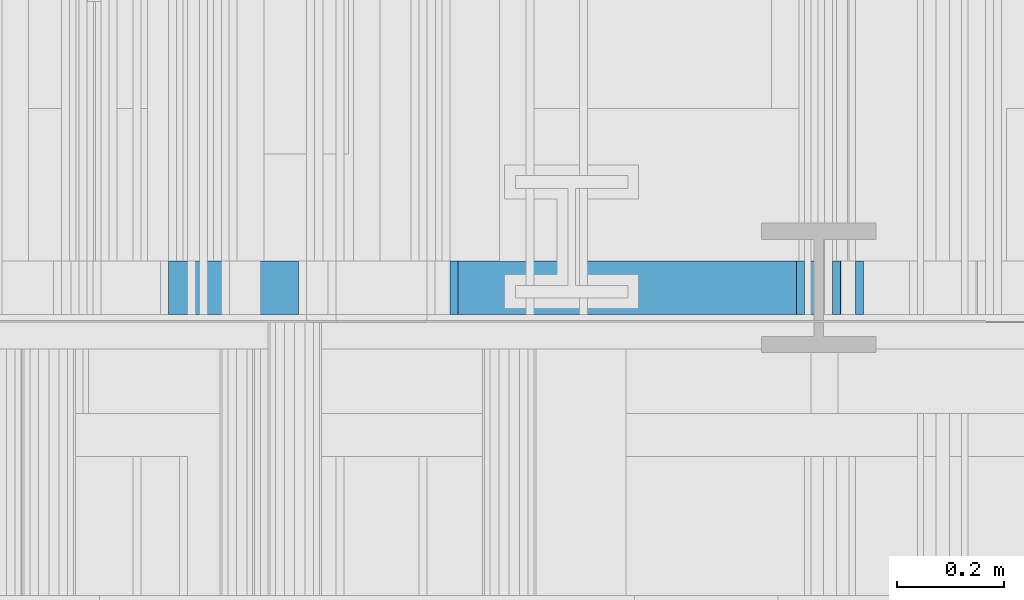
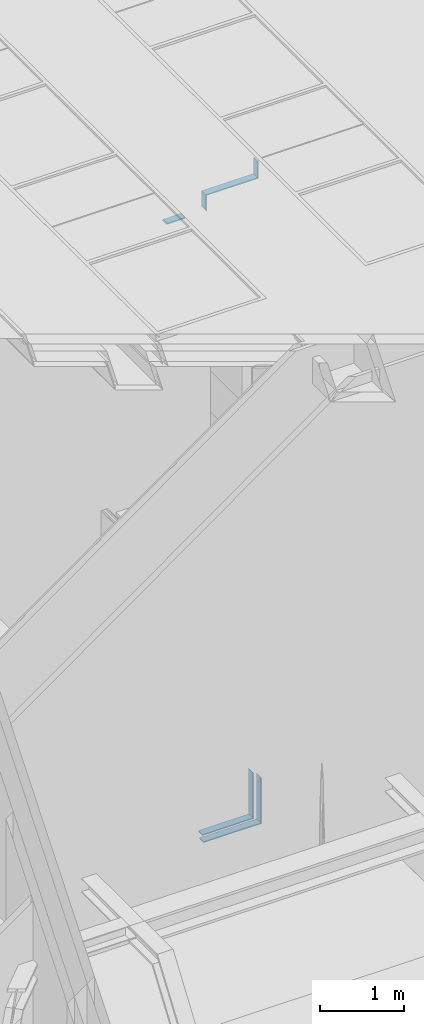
# One storey, part 220 of 583: 8 building element parts, 6 elements without a shape of their own.
"""IFC2X3 building model written with IfcOpenShell, lengths in metres."""

from ifc_helpers import new_model, entity, si_unit, converted_unit, derived_unit, money_unit, direction, frame, origin_with_axes, place, context, subcontext, project, spatial, polyline, outline, extrude, material, type_object, element, aggregate, save


model = new_model("IFC2X3")

# Units and contexts
model_context = context("Model", 3, precision=1e-05, world=origin_with_axes(), true_north=direction((0.0, 1.0)))
body_context = subcontext(model_context, "Body", "Model", "MODEL_VIEW", scale=1.0)
ifc_project = project(units=[si_unit("LENGTHUNIT", "METRE"), si_unit("AREAUNIT", "SQUARE_METRE"), si_unit("VOLUMEUNIT", "CUBIC_METRE"), si_unit("ABSORBEDDOSEUNIT", "GRAY"), si_unit("AMOUNTOFSUBSTANCEUNIT", "MOLE"), si_unit("DOSEEQUIVALENTUNIT", "SIEVERT"), si_unit("ELECTRICCAPACITANCEUNIT", "FARAD"), si_unit("ELECTRICCHARGEUNIT", "COULOMB"), si_unit("ELECTRICCONDUCTANCEUNIT", "SIEMENS"), si_unit("ELECTRICCURRENTUNIT", "AMPERE"), si_unit("ELECTRICRESISTANCEUNIT", "OHM"), si_unit("ELECTRICVOLTAGEUNIT", "VOLT"), si_unit("ENERGYUNIT", "JOULE"), si_unit("FORCEUNIT", "NEWTON"), si_unit("FREQUENCYUNIT", "HERTZ"), si_unit("ILLUMINANCEUNIT", "LUX"), si_unit("INDUCTANCEUNIT", "HENRY"), si_unit("LUMINOUSFLUXUNIT", "LUMEN"), si_unit("LUMINOUSINTENSITYUNIT", "CANDELA"), si_unit("MAGNETICFLUXDENSITYUNIT", "TESLA"), si_unit("MAGNETICFLUXUNIT", "WEBER"), si_unit("MASSUNIT", "GRAM"), converted_unit("PLANEANGLEUNIT", "degree", entity("IfcReal", 0.0174532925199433), si_unit("PLANEANGLEUNIT", "RADIAN"), dimensions=[0, 0, 0, 0, 0, 0, 0]), si_unit("POWERUNIT", "WATT"), si_unit("PRESSUREUNIT", "PASCAL"), si_unit("RADIOACTIVITYUNIT", "BECQUEREL"), si_unit("SOLIDANGLEUNIT", "STERADIAN"), si_unit("THERMODYNAMICTEMPERATUREUNIT", "KELVIN"), si_unit("TIMEUNIT", "SECOND"), derived_unit("ACCELERATIONUNIT", [(si_unit("LENGTHUNIT", "METRE"), 1), (si_unit("TIMEUNIT", "SECOND"), -2)]), derived_unit("ANGULARVELOCITYUNIT", [(converted_unit("PLANEANGLEUNIT", "degree", entity("IfcReal", 0.0174532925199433), si_unit("PLANEANGLEUNIT", "RADIAN"), dimensions=[0, 0, 0, 0, 0, 0, 0]), 1), (si_unit("TIMEUNIT", "SECOND"), -1)]), derived_unit("CURVATUREUNIT", [(converted_unit("PLANEANGLEUNIT", "degree", entity("IfcReal", 0.0174532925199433), si_unit("PLANEANGLEUNIT", "RADIAN"), dimensions=[0, 0, 0, 0, 0, 0, 0]), 1), (si_unit("LENGTHUNIT", "METRE"), -1)]), derived_unit("DYNAMICVISCOSITYUNIT", [(si_unit("PRESSUREUNIT", "PASCAL"), 1), (si_unit("TIMEUNIT", "SECOND"), 1)]), derived_unit("HEATFLUXDENSITYUNIT", [(si_unit("POWERUNIT", "WATT"), 1), (si_unit("LENGTHUNIT", "METRE"), -2)]), derived_unit("HEATINGVALUEUNIT", [(si_unit("ENERGYUNIT", "JOULE"), 1), (si_unit("MASSUNIT", "GRAM"), -1)]), derived_unit("INTEGERCOUNTRATEUNIT", [(si_unit("TIMEUNIT", "SECOND"), -1)]), derived_unit("IONCONCENTRATIONUNIT", [(si_unit("MASSUNIT", "GRAM"), 1), (si_unit("VOLUMEUNIT", "CUBIC_METRE"), -1)]), derived_unit("ISOTHERMALMOISTURECAPACITYUNIT", [(si_unit("VOLUMEUNIT", "CUBIC_METRE"), 1), (si_unit("MASSUNIT", "GRAM"), -1)]), derived_unit("KINEMATICVISCOSITYUNIT", [(si_unit("AREAUNIT", "SQUARE_METRE"), 1), (si_unit("TIMEUNIT", "SECOND"), -1)]), derived_unit("LINEARFORCEUNIT", [(si_unit("FORCEUNIT", "NEWTON"), 1), (si_unit("LENGTHUNIT", "METRE"), -1)]), derived_unit("LINEARMOMENTUNIT", [(si_unit("FORCEUNIT", "NEWTON"), 1), (si_unit("LENGTHUNIT", "METRE"), -1)]), derived_unit("LINEARSTIFFNESSUNIT", [(si_unit("FORCEUNIT", "NEWTON"), 1), (si_unit("LENGTHUNIT", "METRE"), -1)]), derived_unit("LINEARVELOCITYUNIT", [(si_unit("LENGTHUNIT", "METRE"), 1), (si_unit("TIMEUNIT", "SECOND"), -1)]), derived_unit("LUMINOUSINTENSITYDISTRIBUTIONUNIT", [(si_unit("LUMINOUSINTENSITYUNIT", "CANDELA"), 1), (si_unit("LUMINOUSFLUXUNIT", "LUMEN"), -1)]), derived_unit("MASSDENSITYUNIT", [(si_unit("MASSUNIT", "GRAM"), 1), (si_unit("VOLUMEUNIT", "CUBIC_METRE"), -1)]), derived_unit("MASSFLOWRATEUNIT", [(si_unit("MASSUNIT", "GRAM"), 1), (si_unit("TIMEUNIT", "SECOND"), -1)]), derived_unit("MASSPERLENGTHUNIT", [(si_unit("MASSUNIT", "GRAM"), 1), (si_unit("LENGTHUNIT", "METRE"), -1)]), derived_unit("MODULUSOFELASTICITYUNIT", [(si_unit("FORCEUNIT", "NEWTON"), 1), (si_unit("AREAUNIT", "SQUARE_METRE"), -1)]), derived_unit("MODULUSOFLINEARSUBGRADEREACTIONUNIT", [(si_unit("FORCEUNIT", "NEWTON"), 1), (si_unit("LENGTHUNIT", "METRE"), -2)]), derived_unit("MODULUSOFROTATIONALSUBGRADEREACTIONUNIT", [(si_unit("FORCEUNIT", "NEWTON"), 1), (si_unit("LENGTHUNIT", "METRE"), 1)]), derived_unit("MODULUSOFSUBGRADEREACTIONUNIT", [(si_unit("FORCEUNIT", "NEWTON"), 1), (si_unit("VOLUMEUNIT", "CUBIC_METRE"), -1)]), derived_unit("MOISTUREDIFFUSIVITYUNIT", [(si_unit("VOLUMEUNIT", "CUBIC_METRE"), 1), (si_unit("TIMEUNIT", "SECOND"), -1)]), derived_unit("MOLECULARWEIGHTUNIT", [(si_unit("MASSUNIT", "GRAM"), 1), (si_unit("AMOUNTOFSUBSTANCEUNIT", "MOLE"), -1)]), derived_unit("PLANARFORCEUNIT", [(si_unit("FORCEUNIT", "NEWTON"), 1), (si_unit("LENGTHUNIT", "METRE"), -2)]), derived_unit("ROTATIONALFREQUENCYUNIT", [(si_unit("TIMEUNIT", "SECOND"), -1)]), derived_unit("ROTATIONALMASSUNIT", [(si_unit("MASSUNIT", "GRAM"), 1), (si_unit("LENGTHUNIT", "METRE"), 2)]), derived_unit("ROTATIONALSTIFFNESSUNIT", [(si_unit("FORCEUNIT", "NEWTON"), 1), (si_unit("LENGTHUNIT", "METRE"), 1), (converted_unit("PLANEANGLEUNIT", "degree", entity("IfcReal", 0.0174532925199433), si_unit("PLANEANGLEUNIT", "RADIAN"), dimensions=[0, 0, 0, 0, 0, 0, 0]), -1)]), derived_unit("SECTIONAREAINTEGRALUNIT", [(si_unit("LENGTHUNIT", "METRE"), 5)]), derived_unit("SECTIONMODULUSUNIT", [(si_unit("LENGTHUNIT", "METRE"), 3)]), derived_unit("SHEARMODULUSUNIT", [(si_unit("FORCEUNIT", "NEWTON"), 1), (si_unit("AREAUNIT", "SQUARE_METRE"), -1)]), derived_unit("SOUNDPOWERUNIT", [(si_unit("ENERGYUNIT", "JOULE"), 1), (si_unit("TIMEUNIT", "SECOND"), -1)]), derived_unit("SPECIFICHEATCAPACITYUNIT", [(si_unit("FORCEUNIT", "NEWTON"), 1), (si_unit("MASSUNIT", "GRAM"), -1), (si_unit("THERMODYNAMICTEMPERATUREUNIT", "KELVIN"), -1)]), derived_unit("TEMPERATUREGRADIENTUNIT", [(si_unit("THERMODYNAMICTEMPERATUREUNIT", "KELVIN"), 1), (si_unit("LENGTHUNIT", "METRE"), -1)]), derived_unit("THERMALADMITTANCEUNIT", [(si_unit("POWERUNIT", "WATT"), 1), (si_unit("AREAUNIT", "SQUARE_METRE"), -1), (si_unit("THERMODYNAMICTEMPERATUREUNIT", "KELVIN"), -1)]), derived_unit("THERMALCONDUCTANCEUNIT", [(si_unit("POWERUNIT", "WATT"), 1), (si_unit("LENGTHUNIT", "METRE"), -1), (si_unit("THERMODYNAMICTEMPERATUREUNIT", "KELVIN"), -1)]), derived_unit("THERMALEXPANSIONCOEFFICIENTUNIT", [(si_unit("THERMODYNAMICTEMPERATUREUNIT", "KELVIN"), -1)]), derived_unit("THERMALRESISTANCEUNIT", [(si_unit("AREAUNIT", "SQUARE_METRE"), 1), (si_unit("POWERUNIT", "WATT"), -1)]), derived_unit("THERMALTRANSMITTANCEUNIT", [(si_unit("POWERUNIT", "WATT"), 1), (si_unit("AREAUNIT", "SQUARE_METRE"), -1), (si_unit("THERMODYNAMICTEMPERATUREUNIT", "KELVIN"), -1)]), derived_unit("TORQUEUNIT", [(si_unit("FORCEUNIT", "NEWTON"), 1), (si_unit("LENGTHUNIT", "METRE"), 1)]), derived_unit("VAPORPERMEABILITYUNIT", [(si_unit("MASSUNIT", "GRAM"), 1), (si_unit("TIMEUNIT", "SECOND"), -1)]), derived_unit("VOLUMETRICFLOWRATEUNIT", [(si_unit("VOLUMEUNIT", "CUBIC_METRE"), 1), (si_unit("TIMEUNIT", "SECOND"), -1)]), derived_unit("WARPINGCONSTANTUNIT", [(si_unit("LENGTHUNIT", "METRE"), 6)]), derived_unit("WARPINGMOMENTUNIT", [(si_unit("FORCEUNIT", "NEWTON"), 1), (si_unit("LENGTHUNIT", "METRE"), 2)]), money_unit("GBP")], contexts=[model_context])

# Site, building, storey
site_placement = place(None, origin_with_axes())
site = spatial("IfcSite", under=ifc_project, at=site_placement, Name="Site", CompositionType="ELEMENT")
building_placement = place(site_placement, origin_with_axes())
building = spatial("IfcBuilding", under=site, at=building_placement, Name="Building01", CompositionType="ELEMENT")
storey_placement = place(building_placement, frame((0.0, 0.0, 20.78), z_axis=(0.0, 0.0, 1.0), x_axis=(1.0, 0.0, 0.0)))
storey = spatial("IfcBuildingStorey", under=building, at=storey_placement, Name="RL", CompositionType="ELEMENT", Elevation=20.78)

# Wall, building element parts
wall_type_1 = type_object("IfcWallType", Name="SHE_A-Walls_Type05a_Partition_95mm_tall", PredefinedType="NOTDEFINED")
wall_1_placement = place(storey_placement, frame((8.82, 8.64, -3.506868), z_axis=(0.0, 1.0, 0.0), x_axis=(1.0, 0.0, 0.0)))
wall_1 = element("IfcWall", 1, at=wall_1_placement, inside=storey, type_object=wall_type_1, Name="5A", ObjectType="SHE_A-Walls_Type05a_Partition_95mm_tall")
ifc_material = material(Name="A_BSUK_Walls_Timber")
placement_1 = place(wall_1_placement, origin_with_axes())
building_element_part_1 = element("IfcBuildingElementPart", 2, at=placement_1, material=ifc_material, Name="2", context=body_context, shape_type="SweptSolid", body=[
    extrude(outline(polyline([(0.815, 0.05), (0.015, 0.05), (0.015, 0.035), (0.8, 0.035), (0.815, 0.05)])), frame((0.0, 0.0, 0.015), z_axis=(0.0, 0.0, 1.0), x_axis=(1.0, 0.0, 0.0)), (0.0, 0.0, 1.0), 0.1),
])
building_element_part_2 = element("IfcBuildingElementPart", 3, at=placement_1, material=ifc_material, Name="3", context=body_context, shape_type="SweptSolid", body=[
    extrude(outline(polyline([(0.705, -0.06), (0.0, -0.06), (0.0, -0.075), (0.69, -0.075), (0.705, -0.06)])), frame((0.0, 0.0, 0.015), z_axis=(0.0, 0.0, 1.0), x_axis=(1.0, 0.0, 0.0)), (0.0, 0.0, 1.0), 0.1),
])
aggregate(wall_1, [building_element_part_1, building_element_part_2])

wall_2_placement = place(storey_placement, frame((9.585, 8.64, -3.506868), z_axis=(0.0, 1.0, 0.0), x_axis=(0.0, 0.0, 1.0)))
wall_2 = element("IfcWall", 4, at=wall_2_placement, inside=storey, type_object=wall_type_1, Name="5A", ObjectType="SHE_A-Walls_Type05a_Partition_95mm_tall")
placement_2 = place(wall_2_placement, origin_with_axes())
building_element_part_3 = element("IfcBuildingElementPart", 5, at=placement_2, material=ifc_material, Name="2", context=body_context, shape_type="SweptSolid", body=[
    extrude(outline(polyline([(0.616868, 0.05), (-0.05, 0.05), (-0.035, 0.035), (0.631868, 0.035), (0.616868, 0.05)])), frame((0.0, 0.0, 0.015), z_axis=(0.0, 0.0, 1.0), x_axis=(1.0, 0.0, 0.0)), (0.0, 0.0, 1.0), 0.1),
])
building_element_part_4 = element("IfcBuildingElementPart", 6, at=placement_2, material=ifc_material, Name="3", context=body_context, shape_type="SweptSolid", body=[
    extrude(outline(polyline([(0.726868, -0.06), (0.06, -0.06), (0.075, -0.075), (0.741868, -0.075), (0.726868, -0.06)])), frame((0.0, 0.0, 0.015), z_axis=(0.0, 0.0, 1.0), x_axis=(1.0, 0.0, 0.0)), (0.0, 0.0, 1.0), 0.1),
])
aggregate(wall_2, [building_element_part_3, building_element_part_4])

# Wall, building element part
wall_type_2 = type_object("IfcWallType", Name="SHE_A-Walls_Type06f_ExternalWallInsulation_48+15mm", PredefinedType="NOTDEFINED")
wall_3_placement = place(storey_placement, frame((8.8, 8.64, 5.894), z_axis=(0.0, 1.0, 0.0), x_axis=(0.0, 0.0, -1.0)))
wall_3 = element("IfcWall", 7, at=wall_3_placement, inside=storey, type_object=wall_type_2, Name="6F", ObjectType="SHE_A-Walls_Type06f_ExternalWallInsulation_48+15mm")
building_element_part_5_placement = place(wall_3_placement, origin_with_axes())
building_element_part_5 = element("IfcBuildingElementPart", 8, at=building_element_part_5_placement, material=ifc_material, Name="2", context=body_context, shape_type="SweptSolid", body=[
    extrude(outline(polyline([(0.257, -0.063), (0.027, -0.063), (0.042, -0.078), (0.272, -0.078), (0.257, -0.063)])), frame((0.0, 0.0, 0.015), z_axis=(0.0, 0.0, 1.0), x_axis=(1.0, 0.0, 0.0)), (0.0, 0.0, 1.0), 0.1),
])
aggregate(wall_3, [building_element_part_5])

wall_4_placement = place(storey_placement, frame((9.51418, 8.64, 5.93), z_axis=(0.0, 1.0, 0.0), x_axis=(-1.0, 0.0, 0.0)))
wall_4 = element("IfcWall", 9, at=wall_4_placement, inside=storey, type_object=wall_type_2, Name="6F", ObjectType="SHE_A-Walls_Type06f_ExternalWallInsulation_48+15mm")
building_element_part_6_placement = place(wall_4_placement, origin_with_axes())
building_element_part_6 = element("IfcBuildingElementPart", 10, at=building_element_part_6_placement, material=ifc_material, Name="2", context=body_context, shape_type="SweptSolid", body=[
    extrude(outline(polyline([(0.65118, -0.063), (-0.063, -0.063), (-0.078, -0.078), (0.63618, -0.078), (0.65118, -0.063)])), frame((0.0, 0.0, 0.015), z_axis=(0.0, 0.0, 1.0), x_axis=(1.0, 0.0, 0.0)), (0.0, 0.0, 1.0), 0.1),
])
aggregate(wall_4, [building_element_part_6])

wall_5_placement = place(storey_placement, frame((9.51418, 8.64, 6.1), z_axis=(0.0, 1.0, 0.0), x_axis=(0.0, 0.0, -1.0)))
wall_5 = element("IfcWall", 11, at=wall_5_placement, inside=storey, type_object=wall_type_2, Name="6F", ObjectType="SHE_A-Walls_Type06f_ExternalWallInsulation_48+15mm")
building_element_part_7_placement = place(wall_5_placement, origin_with_axes())
building_element_part_7 = element("IfcBuildingElementPart", 12, at=building_element_part_7_placement, material=ifc_material, Name="2", context=body_context, shape_type="SweptSolid", body=[
    extrude(outline(polyline([(0.233, -0.063), (0.0, -0.063), (0.0, -0.078), (0.248, -0.078), (0.233, -0.063)])), frame((0.0, 0.0, 0.015), z_axis=(0.0, 0.0, 1.0), x_axis=(1.0, 0.0, 0.0)), (0.0, 0.0, 1.0), 0.1),
])
aggregate(wall_5, [building_element_part_7])

wall_6_placement = place(storey_placement, frame((8.8, 8.64, 5.7), z_axis=(0.0, 1.0, 0.0), x_axis=(-1.0, 0.0, 0.0)))
wall_6 = element("IfcWall", 13, at=wall_6_placement, inside=storey, type_object=wall_type_2, Name="6F", ObjectType="SHE_A-Walls_Type06f_ExternalWallInsulation_48+15mm")
building_element_part_8_placement = place(wall_6_placement, origin_with_axes())
building_element_part_8 = element("IfcBuildingElementPart", 14, at=building_element_part_8_placement, material=ifc_material, Name="4", context=body_context, shape_type="SweptSolid", body=[
    extrude(outline(polyline([(0.463, -0.063), (0.22, -0.063), (0.22, -0.078), (0.478, -0.078), (0.463, -0.063)])), frame((0.0, 0.0, 0.015), z_axis=(0.0, 0.0, 1.0), x_axis=(1.0, 0.0, 0.0)), (0.0, 0.0, 1.0), 0.1),
])
aggregate(wall_6, [building_element_part_8])

save(model, "model.ifc")
